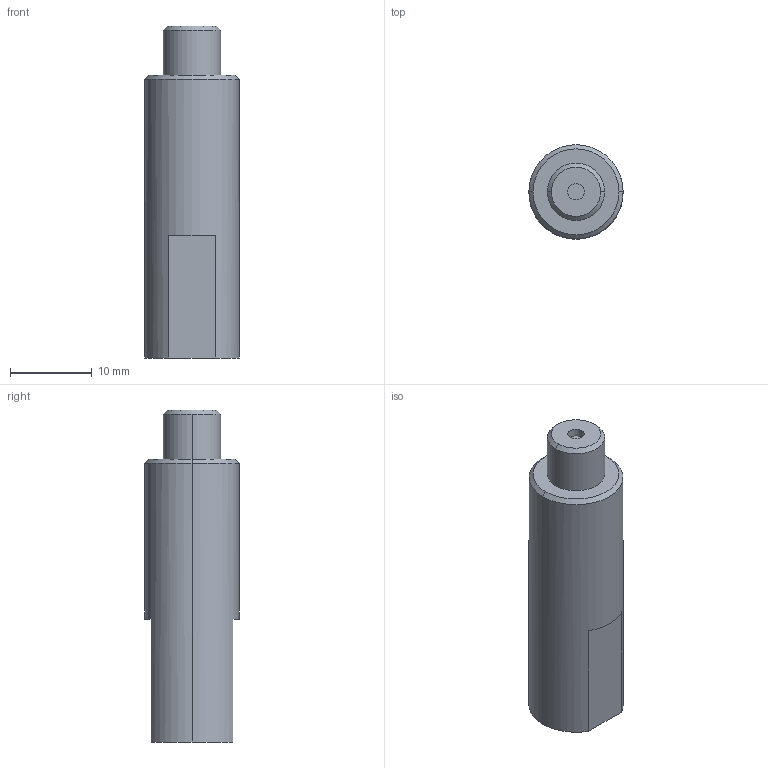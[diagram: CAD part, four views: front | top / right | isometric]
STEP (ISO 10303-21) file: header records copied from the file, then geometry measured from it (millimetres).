
FILE_DESCRIPTION(('CATIA V5 STEP Exchange'),'2;1');
FILE_NAME('D:\姚明阳\1、工装图纸\AGZ113\AGZ113.02_V1.stp','2024-11-20T05:29:13+00:00',('none'),('none'),'CATIA Version 5 Release 21 GA (IN-10)','CATIA V5 STEP AP214','none');
FILE_SCHEMA(('AUTOMOTIVE_DESIGN { 1 0 10303 214 1 1 1 1 }'));
Length unit declared in the file: millimetre
Products named in the file (1): Part1
Bounding box: 11.5 x 11.5 x 40.5 mm (x, y, z)
Volume: 3637.5 mm3; surface area: 1667.4 mm2
Topology: 1 solids, 1 shells, 21 faces, 44 edges, 28 vertices
Faces by surface type: plane 9, cylinder 8, cone 4
Entity records: 543 total; most frequent: CARTESIAN_POINT 89, ORIENTED_EDGE 88, DIRECTION 76, EDGE_CURVE 44, AXIS2_PLACEMENT_3D 41, VERTEX_POINT 28, CIRCLE 24, EDGE_LOOP 24
